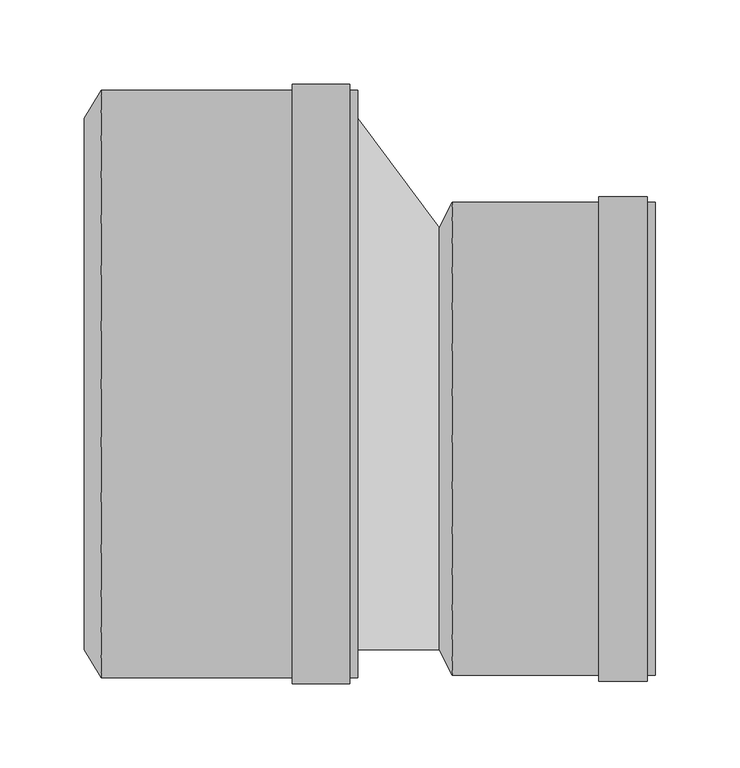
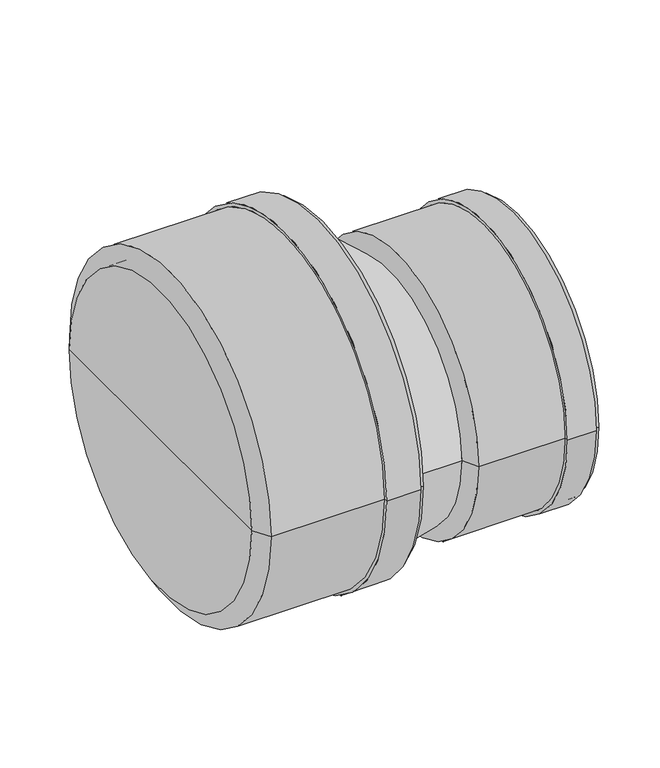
"""IFC4 building model written with IfcOpenShell, lengths in millimetres: pipe fitting geometry, pf_KGR_red-nes : pf_KGR_red-nes."""

import ifcopenshell
import ifcopenshell.guid

model = None  # the IFC model being written
_history = None  # IfcOwnerHistory: only IFC2X3 demands one
_inside = {}  # id of a spatial element -> (the spatial element, [elements in it])
_under = {}  # id of a project, library or spatial element -> (it, [spatial elements below it])
_declared = {}  # id of a project -> (the project, [libraries it declares])
_typed = {}  # id of a type object -> (the type object, [elements of that type])
_made_of = {}  # id of a material, layer set ... -> (it, [elements and type objects made of it])


def new_model(schema):
    """Start an empty IFC model of exactly this schema.

    Asked for "IFC4X3", IfcOpenShell would pick the latest addendum, in which some entities
    have other attributes; the version numbers below select the first issue.
    IFC2X3 requires an IfcOwnerHistory on every rooted entity: one is made here for all.
    """
    global model, _history
    if schema == "IFC4X3":
        model = ifcopenshell.file(schema_version=(4, 3, 0, 0))
    else:
        model = ifcopenshell.file(schema=schema)
    _inside.clear()
    _under.clear()
    _declared.clear()
    _typed.clear()
    _made_of.clear()
    _history = None
    if model.schema == "IFC2X3":
        org = make("IfcOrganization", Name="unknown")
        user = make(
            "IfcPersonAndOrganization",
            ThePerson=make("IfcPerson", FamilyName="unknown"),
            TheOrganization=org,
        )
        app = make(
            "IfcApplication",
            ApplicationDeveloper=org,
            Version="unknown",
            ApplicationFullName="unknown",
            ApplicationIdentifier="unknown",
        )
        _history = make(
            "IfcOwnerHistory",
            OwningUser=user,
            OwningApplication=app,
            ChangeAction="ADDED",
            CreationDate=0,
        )
    return model


def make(cls, **values):
    """One entity of the class cls with the attributes given. An attribute that is None is left unset."""
    return model.create_entity(
        cls, **{name: value for name, value in values.items() if value is not None}
    )


def rooted(cls, **values):
    """An entity with a GlobalId (a new one), such as an element, a storey or a relation."""
    return make(cls, GlobalId=ifcopenshell.guid.new(), OwnerHistory=_history, **values)


def si_unit(unit_type, name, prefix=None):
    """IfcSIUnit, for example si_unit("LENGTHUNIT", "METRE", prefix="MILLI")."""
    return make("IfcSIUnit", UnitType=unit_type, Prefix=prefix, Name=name)


def assignment(units):
    """IfcUnitAssignment: the units of a project."""
    return None if units is None else make("IfcUnitAssignment", Units=units)


def point(xyz):
    """IfcCartesianPoint."""
    return None if xyz is None else make("IfcCartesianPoint", Coordinates=xyz)


def direction(xyz):
    """IfcDirection."""
    return None if xyz is None else make("IfcDirection", DirectionRatios=xyz)


def frame(location, z_axis=None, x_axis=None):
    """IfcAxis2Placement3D, a coordinate frame: its origin and axes. An axis left out is left unset."""
    return make(
        "IfcAxis2Placement3D",
        Location=point(location),
        Axis=direction(z_axis),
        RefDirection=direction(x_axis),
    )


def origin():
    """The frame at (0, 0, 0) with its axes left unset."""
    return frame((0.0, 0.0, 0.0))


def place(relative_to, where):
    """IfcLocalPlacement: puts the frame where relative to a parent placement (None: the world)."""
    return make(
        "IfcLocalPlacement", PlacementRelTo=relative_to, RelativePlacement=where
    )


def context(
    kind, dimensions, precision=None, world=None, true_north=None, identifier=None
):
    """IfcGeometricRepresentationContext, for example the 3D "Model" context."""
    return make(
        "IfcGeometricRepresentationContext",
        ContextIdentifier=identifier,
        ContextType=kind,
        CoordinateSpaceDimension=dimensions,
        Precision=precision,
        WorldCoordinateSystem=world,
        TrueNorth=true_north,
    )


def project(units=None, contexts=None):
    """IfcProject with its units and contexts."""
    return rooted(
        "IfcProject",
        Name="project",
        RepresentationContexts=contexts,
        UnitsInContext=assignment(units),
    )


def spatial(cls, under=None, at=None, **own):
    """A site, building, storey or space (cls), placed at a placement, below another one or the project."""
    s = rooted(cls, ObjectPlacement=at, **own)
    if under is not None:
        _under.setdefault(under.id(), (under, []))[1].append(s)
    return s


def polyline(points):
    """IfcPolyline through the points."""
    return make("IfcPolyline", Points=[point(p) for p in points])


def circle_curve(where, radius):
    """IfcCircle in the frame where."""
    return make("IfcCircle", Position=where, Radius=radius)


def shape(context_of_items, identifier, shape_type, items):
    """IfcShapeRepresentation: the items that make up one representation, for example the "Body"."""
    return make(
        "IfcShapeRepresentation",
        ContextOfItems=context_of_items,
        RepresentationIdentifier=identifier,
        RepresentationType=shape_type,
        Items=items,
    )


def source(mapping_origin, context_of_items, identifier, shape_type, items):
    """IfcRepresentationMap: a shape defined once, which mapped items show again and again."""
    return make(
        "IfcRepresentationMap",
        MappingOrigin=mapping_origin,
        MappedRepresentation=shape(context_of_items, identifier, shape_type, items),
    )


def transform(
    local_origin,
    x_axis=None,
    y_axis=None,
    z_axis=None,
    scale=None,
    scale2=None,
    scale3=None,
    uniform=True,
):
    """IfcCartesianTransformationOperator3D, or its non-uniform kind. x_axis, y_axis, z_axis: its Axis1, 2, 3."""
    if uniform:
        return make(
            "IfcCartesianTransformationOperator3D",
            Axis1=direction(x_axis),
            Axis2=direction(y_axis),
            LocalOrigin=point(local_origin),
            Scale=scale,
            Axis3=direction(z_axis),
        )
    return make(
        "IfcCartesianTransformationOperator3DnonUniform",
        Axis1=direction(x_axis),
        Axis2=direction(y_axis),
        LocalOrigin=point(local_origin),
        Scale=scale,
        Axis3=direction(z_axis),
        Scale2=scale2,
        Scale3=scale3,
    )


def mapped(mapping_source, mapping_target):
    """IfcMappedItem: shows the shape of a source again, moved by a transform."""
    return make(
        "IfcMappedItem", MappingSource=mapping_source, MappingTarget=mapping_target
    )


def made_of(thing, what):
    """Note that an element or type object is made of a material, layer set ...; save() writes the relation."""
    if what is not None:
        _made_of.setdefault(what.id(), (what, []))[1].append(thing)
    return thing


def element(
    cls,
    number,
    at=None,
    inside=None,
    cuts=None,
    type_object=None,
    material=None,
    context=None,
    identifier="Body",
    shape_type=None,
    held_by="IfcProductDefinitionShape",
    body=None,
    shapes=None,
    **own,
):
    """One element of the class cls, such as IfcWall. Its Tag is "e" and its number.

    at: its placement. inside: the storey or other place that contains it. cuts: it is an
    opening in that element (IfcRelVoidsElement). A single representation is given by context,
    identifier, shape_type and body (its items); several are given by shapes. held_by: the class
    of the entity that holds the representations. save() writes the other relations.
    """
    e = rooted(cls, Tag="e%d" % number, ObjectPlacement=at, **own)
    if body is not None:
        shapes = [shape(context, identifier, shape_type, body)]
    if shapes is not None:
        e.Representation = make(held_by, Representations=shapes)
    if inside is not None:
        _inside.setdefault(inside.id(), (inside, []))[1].append(e)
    if cuts is not None:
        rooted(
            "IfcRelVoidsElement", RelatingBuildingElement=cuts, RelatedOpeningElement=e
        )
    if type_object is not None:
        _typed.setdefault(type_object.id(), (type_object, []))[1].append(e)
    return made_of(e, material)


def aggregate(whole, parts):
    """IfcRelAggregates: a whole, such as a stair, and the parts it consists of."""
    return rooted("IfcRelAggregates", RelatingObject=whole, RelatedObjects=parts)


def save(model, path):
    """Write the relations noted so far, then the file.

    IfcRelAggregates (storeys below a building ...), IfcRelContainedInSpatialStructure (elements
    in a storey), IfcRelDefinesByType, IfcRelAssociatesMaterial and IfcRelDeclares: one each for
    every whole, place, type object, material and project.
    """
    for whole, parts in _under.values():
        aggregate(whole, parts)
    for where, things in _inside.values():
        rooted(
            "IfcRelContainedInSpatialStructure",
            RelatedElements=things,
            RelatingStructure=where,
        )
    for kind, things in _typed.values():
        rooted("IfcRelDefinesByType", RelatedObjects=things, RelatingType=kind)
    for what, things in _made_of.values():
        rooted("IfcRelAssociatesMaterial", RelatedObjects=things, RelatingMaterial=what)
    for by, libraries in _declared.values():
        rooted("IfcRelDeclares", RelatingContext=by, RelatedDefinitions=libraries)
    model.write(path)


def plane_surface(at):
    """IfcPlane: the flat surface through the origin of the frame at, square to its z axis."""
    return make("IfcPlane", Position=at)


def cylinder_surface(at, radius):
    """IfcCylindricalSurface: all points at the distance radius from the z axis of the frame at."""
    return make("IfcCylindricalSurface", Position=at, Radius=radius)


def revolved_surface(curve, axis_point, axis_direction):
    """IfcSurfaceOfRevolution: the curve turned about the line through axis_point along axis_direction."""
    return make(
        "IfcSurfaceOfRevolution",
        SweptCurve=make("IfcArbitraryOpenProfileDef", ProfileType="CURVE", Curve=curve),
        AxisPosition=make("IfcAxis1Placement", Location=point(axis_point), Axis=direction(axis_direction)),
    )


def spline_surface(u_degree, v_degree, points, u_multiplicities, v_multiplicities, u_knots, v_knots, weights=None):
    """IfcBSplineSurfaceWithKnots; with weights, IfcRationalBSplineSurfaceWithKnots. points: one row for each step in u."""
    own = dict(
        UDegree=u_degree,
        VDegree=v_degree,
        ControlPointsList=[[point(p) for p in row] for row in points],
        SurfaceForm="UNSPECIFIED",
        UClosed=False,
        VClosed=False,
        SelfIntersect=False,
        UMultiplicities=u_multiplicities,
        VMultiplicities=v_multiplicities,
        UKnots=u_knots,
        VKnots=v_knots,
        KnotSpec="UNSPECIFIED",
    )
    if weights is None:
        return make("IfcBSplineSurfaceWithKnots", **own)
    return make("IfcRationalBSplineSurfaceWithKnots", WeightsData=weights, **own)


def advanced_brep(points, edges, surfaces, faces):
    """IfcAdvancedBrep: a solid bounded by faces that lie on surfaces and meet in shared edges.

    An edge is (start, end): straight between two places in points (the first is 0);
    or (start, end, curve); or (start, end, curve, False) where it runs against its curve.
    A face is (place in surfaces, loops), or (place, loops, False) where it looks against
    its surface's normal. A loop lists edges by number (the first is 1), with a minus sign
    where the edge is run from its end to its start. The first loop is the outer one.
    """
    corners = [point(p) for p in points]
    vertices = [make("IfcVertexPoint", VertexGeometry=c) for c in corners]
    made = []
    for start, end, *more in edges:
        made.append(
            make(
                "IfcEdgeCurve",
                EdgeStart=vertices[start],
                EdgeEnd=vertices[end],
                EdgeGeometry=more[0] if more else make("IfcPolyline", Points=[corners[start], corners[end]]),
                SameSense=more[1] if len(more) > 1 else True,
            )
        )
    hull = []
    for where, loops, *sense in faces:
        bounds = []
        for j, loop in enumerate(loops):
            ring = [make("IfcOrientedEdge", EdgeElement=made[abs(k) - 1], Orientation=k > 0) for k in loop]
            bounds.append(
                make(
                    "IfcFaceOuterBound" if j == 0 else "IfcFaceBound",
                    Bound=make("IfcEdgeLoop", EdgeList=ring),
                    Orientation=True,
                )
            )
        hull.append(make("IfcAdvancedFace", Bounds=bounds, FaceSurface=surfaces[where], SameSense=sense[0] if sense else True))
    return make("IfcAdvancedBrep", Outer=make("IfcClosedShell", CfsFaces=hull))


def pipe_fitting_99e02b00(model_context):
    return source(origin(), model_context, "Body", "AdvancedBrep", [
        advanced_brep(
        [(-162.0, -157.5, 0.0), (-162.0, 157.5, 0.0), (-152.1, 174.1, 0.0), (-152.1, -174.1, 0.0), (-162.0, 0.0, 0.0), (0.0, -174.1, 0.0), (0.0, 174.1, 0.0), (0.0, 157.5, 0.0), (0.0, -157.5, 0.0), (-4.8, -174.1, 0.0), (-4.8, 174.1, 0.0), (-4.8, -177.5, 0.0), (-4.8, 177.5, 0.0), (-38.7, -177.5, 0.0), (-38.7, 177.5, 0.0), (-38.7, -174.1, 0.0), (-38.7, 174.1, 0.0), (-152.1, -157.5, 0.0), (-152.1, 157.5, 0.0), (-152.1, 0.0, 0.0)],
        [
            (0, 1, circle_curve(frame((-162.0, 0.0, 0.0), z_axis=(1.0, 0.0, 0.0), x_axis=(0.0, 1.0, 0.0)), 157.5)),
            (1, 2),
            (2, 3, circle_curve(frame((-152.1, 0.0, 0.0), z_axis=(-1.0, 0.0, 0.0), x_axis=(0.0, 1.0, 0.0)), 174.1)),
            (3, 0),
            (1, 0, circle_curve(frame((-162.0, 0.0, 0.0), z_axis=(1.0, 0.0, 0.0), x_axis=(0.0, 1.0, 0.0)), 157.5)),
            (3, 2, circle_curve(frame((-152.1, 0.0, 0.0), z_axis=(-1.0, 0.0, 0.0), x_axis=(0.0, 1.0, 0.0)), 174.1)),
            (4, 1),
            (0, 4),
            (5, 6, circle_curve(frame((0.0, 0.0, 0.0), z_axis=(1.0, 0.0, 0.0), x_axis=(0.0, 1.0, 0.0)), 174.1)),
            (6, 7),
            (7, 8, circle_curve(frame((0.0, 0.0, 0.0), z_axis=(-1.0, 0.0, 0.0), x_axis=(0.0, 1.0, 0.0)), 157.5)),
            (8, 5),
            (6, 5, circle_curve(frame((0.0, 0.0, 0.0), z_axis=(1.0, 0.0, 0.0), x_axis=(0.0, 1.0, 0.0)), 174.1)),
            (8, 7, circle_curve(frame((0.0, 0.0, 0.0), z_axis=(-1.0, 0.0, 0.0), x_axis=(0.0, 1.0, 0.0)), 157.5)),
            (9, 10, circle_curve(frame((-4.8, 0.0, 0.0), z_axis=(1.0, 0.0, 0.0), x_axis=(0.0, 1.0, 0.0)), 174.1)),
            (10, 6),
            (5, 9),
            (10, 9, circle_curve(frame((-4.8, 0.0, 0.0), z_axis=(1.0, 0.0, 0.0), x_axis=(0.0, 1.0, 0.0)), 174.1)),
            (11, 12, circle_curve(frame((-4.8, 0.0, 0.0), z_axis=(1.0, 0.0, 0.0), x_axis=(0.0, 1.0, 0.0)), 177.5)),
            (12, 10),
            (9, 11),
            (12, 11, circle_curve(frame((-4.8, 0.0, 0.0), z_axis=(1.0, 0.0, 0.0), x_axis=(0.0, 1.0, 0.0)), 177.5)),
            (13, 14, circle_curve(frame((-38.7, 0.0, 0.0), z_axis=(1.0, 0.0, 0.0), x_axis=(0.0, 1.0, 0.0)), 177.5)),
            (14, 12),
            (11, 13),
            (14, 13, circle_curve(frame((-38.7, 0.0, 0.0), z_axis=(1.0, 0.0, 0.0), x_axis=(0.0, 1.0, 0.0)), 177.5)),
            (15, 16, circle_curve(frame((-38.7, 0.0, 0.0), z_axis=(1.0, 0.0, 0.0), x_axis=(0.0, 1.0, 0.0)), 174.1)),
            (16, 14),
            (13, 15),
            (16, 15, circle_curve(frame((-38.7, 0.0, 0.0), z_axis=(1.0, 0.0, 0.0), x_axis=(0.0, 1.0, 0.0)), 174.1)),
            (2, 16),
            (15, 3),
            (17, 18, circle_curve(frame((-152.1, 0.0, 0.0), z_axis=(1.0, 0.0, 0.0), x_axis=(0.0, 1.0, 0.0)), 157.5)),
            (18, 19),
            (19, 17),
            (18, 17, circle_curve(frame((-152.1, 0.0, 0.0), z_axis=(1.0, 0.0, 0.0), x_axis=(0.0, 1.0, 0.0)), 157.5)),
            (7, 18),
            (17, 8),
        ],
        [
            revolved_surface(polyline([(-152.1, 174.1, 0.0), (-162.0, 157.5, 0.0)]), (-162.0, 0.0, 0.0), (-1.0, 0.0, 0.0)),
            plane_surface(frame((-162.0, 0.0, 0.0), z_axis=(-1.0, 0.0, 0.0), x_axis=(0.0, 1.0, 0.0))),
            plane_surface(frame((0.0, 0.0, 0.0), z_axis=(1.0, 0.0, 0.0), x_axis=(0.0, 1.0, 0.0))),
            cylinder_surface(frame((-162.0, 0.0, 0.0), z_axis=(-1.0, 0.0, 0.0), x_axis=(0.0, 1.0, 0.0)), 174.1),
            plane_surface(frame((-4.8, 0.0, 0.0), z_axis=(1.0, 0.0, 0.0), x_axis=(0.0, 1.0, 0.0))),
            cylinder_surface(frame((-162.0, 0.0, 0.0), z_axis=(-1.0, 0.0, 0.0), x_axis=(0.0, 1.0, 0.0)), 177.5),
            plane_surface(frame((-38.7, 0.0, 0.0), z_axis=(-1.0, 0.0, 0.0), x_axis=(0.0, 1.0, 0.0))),
            plane_surface(frame((-152.1, 0.0, 0.0), z_axis=(1.0, 0.0, 0.0), x_axis=(0.0, 1.0, 0.0))),
            revolved_surface(polyline([(-152.1, 157.5, 0.0), (0.0, 157.5, 0.0)]), (-162.0, 0.0, 0.0), (-1.0, 0.0, 0.0)),
        ],
        [
            (0, [[1, 2, 3, 4]]),
            (0, [[5, -4, 6, -2]]),
            (1, [[7, -1, 8]]),
            (1, [[-8, -5, -7]]),
            (2, [[9, 10, 11, 12]]),
            (2, [[13, -12, 14, -10]]),
            (3, [[15, 16, -9, 17]]),
            (3, [[18, -17, -13, -16]]),
            (4, [[19, 20, -15, 21]]),
            (4, [[22, -21, -18, -20]]),
            (5, [[23, 24, -19, 25]]),
            (5, [[26, -25, -22, -24]]),
            (6, [[27, 28, -23, 29]]),
            (6, [[30, -29, -26, -28]]),
            (3, [[-3, 31, -27, 32]]),
            (3, [[-6, -32, -30, -31]]),
            (7, [[33, 34, 35]]),
            (7, [[36, -35, -34]]),
            (8, [[-11, 37, -33, 38]]),
            (8, [[-14, -38, -36, -37]]),
        ],
    ),
        advanced_brep(
        [(48.25, -157.5, 0.0), (48.25, 92.5, 0.0), (55.95, 107.6, 0.0), (55.95, -172.6, 0.0), (48.25, -32.5, 0.0), (176.25, -172.6, 0.0), (176.25, 107.6, 0.0), (176.25, 92.5, 0.0), (176.25, -157.5, 0.0), (171.45, -172.6, 0.0), (171.45, 107.6, 0.0), (171.45, -176.0, 0.0), (171.45, 111.0, 0.0), (142.75, -176.0, 0.0), (142.75, 111.0, 0.0), (142.75, -172.6, 0.0), (142.75, 107.6, 0.0), (55.95, -157.5, 0.0), (55.95, 92.5, 0.0), (55.95, -32.5, 0.0)],
        [
            (0, 1, circle_curve(frame((48.25, -32.5, 0.0), z_axis=(1.0, 0.0, 0.0), x_axis=(0.0, 1.0, 0.0)), 125.0)),
            (1, 2),
            (2, 3, circle_curve(frame((55.95, -32.5, 0.0), z_axis=(-1.0, 0.0, 0.0), x_axis=(0.0, 1.0, 0.0)), 140.1)),
            (3, 0),
            (1, 0, circle_curve(frame((48.25, -32.5, 0.0), z_axis=(1.0, 0.0, 0.0), x_axis=(0.0, 1.0, 0.0)), 125.0)),
            (3, 2, circle_curve(frame((55.95, -32.5, 0.0), z_axis=(-1.0, 0.0, 0.0), x_axis=(0.0, 1.0, 0.0)), 140.1)),
            (4, 1),
            (0, 4),
            (5, 6, circle_curve(frame((176.25, -32.5, 0.0), z_axis=(1.0, 0.0, 0.0), x_axis=(0.0, 1.0, 0.0)), 140.1)),
            (6, 7),
            (7, 8, circle_curve(frame((176.25, -32.5, 0.0), z_axis=(-1.0, 0.0, 0.0), x_axis=(0.0, 1.0, 0.0)), 125.0)),
            (8, 5),
            (6, 5, circle_curve(frame((176.25, -32.5, 0.0), z_axis=(1.0, 0.0, 0.0), x_axis=(0.0, 1.0, 0.0)), 140.1)),
            (8, 7, circle_curve(frame((176.25, -32.5, 0.0), z_axis=(-1.0, 0.0, 0.0), x_axis=(0.0, 1.0, 0.0)), 125.0)),
            (9, 10, circle_curve(frame((171.45, -32.5, 0.0), z_axis=(1.0, 0.0, 0.0), x_axis=(0.0, 1.0, 0.0)), 140.1)),
            (10, 6),
            (5, 9),
            (10, 9, circle_curve(frame((171.45, -32.5, 0.0), z_axis=(1.0, 0.0, 0.0), x_axis=(0.0, 1.0, 0.0)), 140.1)),
            (11, 12, circle_curve(frame((171.45, -32.5, 0.0), z_axis=(1.0, 0.0, 0.0), x_axis=(0.0, 1.0, 0.0)), 143.5)),
            (12, 10),
            (9, 11),
            (12, 11, circle_curve(frame((171.45, -32.5, 0.0), z_axis=(1.0, 0.0, 0.0), x_axis=(0.0, 1.0, 0.0)), 143.5)),
            (13, 14, circle_curve(frame((142.75, -32.5, 0.0), z_axis=(1.0, 0.0, 0.0), x_axis=(0.0, 1.0, 0.0)), 143.5)),
            (14, 12),
            (11, 13),
            (14, 13, circle_curve(frame((142.75, -32.5, 0.0), z_axis=(1.0, 0.0, 0.0), x_axis=(0.0, 1.0, 0.0)), 143.5)),
            (15, 16, circle_curve(frame((142.75, -32.5, 0.0), z_axis=(1.0, 0.0, 0.0), x_axis=(0.0, 1.0, 0.0)), 140.1)),
            (16, 14),
            (13, 15),
            (16, 15, circle_curve(frame((142.75, -32.5, 0.0), z_axis=(1.0, 0.0, 0.0), x_axis=(0.0, 1.0, 0.0)), 140.1)),
            (2, 16),
            (15, 3),
            (17, 18, circle_curve(frame((55.95, -32.5, 0.0), z_axis=(1.0, 0.0, 0.0), x_axis=(0.0, 1.0, 0.0)), 125.0)),
            (18, 19),
            (19, 17),
            (18, 17, circle_curve(frame((55.95, -32.5, 0.0), z_axis=(1.0, 0.0, 0.0), x_axis=(0.0, 1.0, 0.0)), 125.0)),
            (7, 18),
            (17, 8),
        ],
        [
            revolved_surface(polyline([(55.95, 107.6, 0.0), (48.25, 92.5, 0.0)]), (48.25, -32.5, 0.0), (-1.0, 0.0, 0.0)),
            plane_surface(frame((48.25, -32.5, 0.0), z_axis=(-1.0, 0.0, 0.0), x_axis=(0.0, 1.0, 0.0))),
            plane_surface(frame((176.25, -32.5, 0.0), z_axis=(1.0, 0.0, 0.0), x_axis=(0.0, 1.0, 0.0))),
            cylinder_surface(frame((48.25, -32.5, 0.0), z_axis=(-1.0, 0.0, 0.0), x_axis=(0.0, 1.0, 0.0)), 140.1),
            plane_surface(frame((171.45, -32.5, 0.0), z_axis=(1.0, 0.0, 0.0), x_axis=(0.0, 1.0, 0.0))),
            cylinder_surface(frame((48.25, -32.5, 0.0), z_axis=(-1.0, 0.0, 0.0), x_axis=(0.0, 1.0, 0.0)), 143.5),
            plane_surface(frame((142.75, -32.5, 0.0), z_axis=(-1.0, 0.0, 0.0), x_axis=(0.0, 1.0, 0.0))),
            plane_surface(frame((55.95, -32.5, 0.0), z_axis=(1.0, 0.0, 0.0), x_axis=(0.0, 1.0, 0.0))),
            revolved_surface(polyline([(55.95, 92.5, 0.0), (176.25, 92.5, 0.0)]), (48.25, -32.5, 0.0), (-1.0, 0.0, 0.0)),
        ],
        [
            (0, [[1, 2, 3, 4]]),
            (0, [[5, -4, 6, -2]]),
            (1, [[7, -1, 8]]),
            (1, [[-8, -5, -7]]),
            (2, [[9, 10, 11, 12]]),
            (2, [[13, -12, 14, -10]]),
            (3, [[15, 16, -9, 17]]),
            (3, [[18, -17, -13, -16]]),
            (4, [[19, 20, -15, 21]]),
            (4, [[22, -21, -18, -20]]),
            (5, [[23, 24, -19, 25]]),
            (5, [[26, -25, -22, -24]]),
            (6, [[27, 28, -23, 29]]),
            (6, [[30, -29, -26, -28]]),
            (3, [[-3, 31, -27, 32]]),
            (3, [[-6, -32, -30, -31]]),
            (7, [[33, 34, 35]]),
            (7, [[36, -35, -34]]),
            (8, [[-11, 37, -33, 38]]),
            (8, [[-14, -38, -36, -37]]),
        ],
    ),
        advanced_brep(
        [(48.25, -157.5, 0.0), (48.25, 92.5, 0.0), (0.0, -157.5, 0.0), (0.0, 157.5, 0.0)],
        [
            (0, 1, circle_curve(frame((48.25, -32.5, 0.0), z_axis=(1.0, 0.0, 0.0), x_axis=(0.0, 1.0, 0.0)), 125.0)),
            (1, 0, circle_curve(frame((48.25, -32.5, 0.0), z_axis=(1.0, 0.0, 0.0), x_axis=(0.0, 1.0, 0.0)), 125.0)),
            (2, 3, circle_curve(frame((0.0, 0.0, 0.0), z_axis=(-1.0, 0.0, 0.0), x_axis=(0.0, 1.0, 0.0)), 157.5)),
            (3, 2, circle_curve(frame((0.0, 0.0, 0.0), z_axis=(-1.0, 0.0, 0.0), x_axis=(0.0, 1.0, 0.0)), 157.5)),
            (3, 1),
            (0, 2),
        ],
        [
            plane_surface(frame((48.25, -32.5, 0.0), z_axis=(1.0, 0.0, 0.0), x_axis=(0.0, 0.0, -1.0))),
            plane_surface(frame((0.0, 0.0, 0.0), z_axis=(-1.0, 0.0, 0.0), x_axis=(0.0, 0.0, -1.0))),
            spline_surface(2, 1, [[(0.0, -157.5, 0.0), (48.25, -157.5, 0.0)], [(0.0, -157.5, -157.5), (48.25, -157.5, -125.0)], [(0.0, 0.0, -157.5), (48.25, -32.5, -125.0)], [(0.0, 157.5, -157.5), (48.25, 92.5, -125.0)], [(0.0, 157.5, 0.0), (48.25, 92.5, 0.0)]], [3, 2, 3], [2, 2], [0.0, 1.0, 2.0], [0.0, 1.0], weights=[[1.0, 1.0], [0.7071067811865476, 0.7071067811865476], [1.0, 1.0], [0.7071067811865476, 0.7071067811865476], [1.0, 1.0]]),
            spline_surface(2, 1, [[(0.0, 157.5, 0.0), (48.25, 92.5, 0.0)], [(0.0, 157.5, 157.5), (48.25, 92.5, 125.0)], [(0.0, 0.0, 157.5), (48.25, -32.5, 125.0)], [(0.0, -157.5, 157.5), (48.25, -157.5, 125.0)], [(0.0, -157.5, 0.0), (48.25, -157.5, 0.0)]], [3, 2, 3], [2, 2], [0.0, 1.0, 2.0], [0.0, 1.0], weights=[[1.0, 1.0], [0.7071067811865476, 0.7071067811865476], [1.0, 1.0], [0.7071067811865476, 0.7071067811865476], [1.0, 1.0]]),
        ],
        [
            (0, [[1, 2]]),
            (1, [[3, 4]]),
            (2, [[-4, 5, -1, 6]]),
            (3, [[-3, -6, -2, -5]]),
        ],
    ),
    ])


if __name__ == "__main__":
    model = new_model("IFC4")
    model_context = context("Model", 3, world=origin())
    ifc_project = project(units=[si_unit("LENGTHUNIT", "METRE", prefix="MILLI")], contexts=[model_context])
    site = spatial("IfcSite", under=ifc_project)
    building = spatial("IfcBuilding", under=site)
    placement = place(None, origin())
    pipe_fitting_shape = pipe_fitting_99e02b00(model_context)
    element("IfcPipeFitting", 1, ObjectType="pf_KGR_red-nes : pf_KGR_red-nes", at=placement, inside=building, context=model_context, shape_type="MappedRepresentation", body=[
        mapped(pipe_fitting_shape, transform((0.0, 0.0, 0.0), x_axis=(1.0, 0.0, 0.0), y_axis=(0.0, 1.0, 0.0), z_axis=(0.0, 0.0, 1.0))),
    ])
    save(model, "model.ifc")
